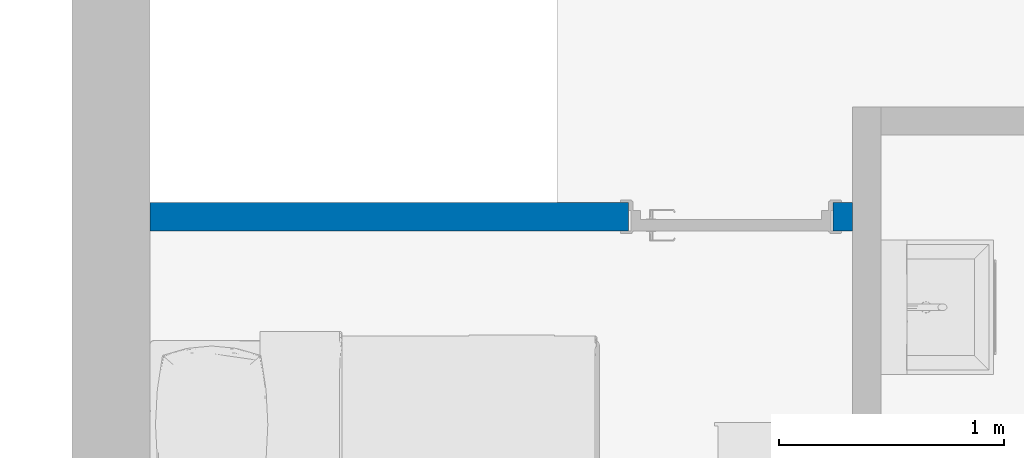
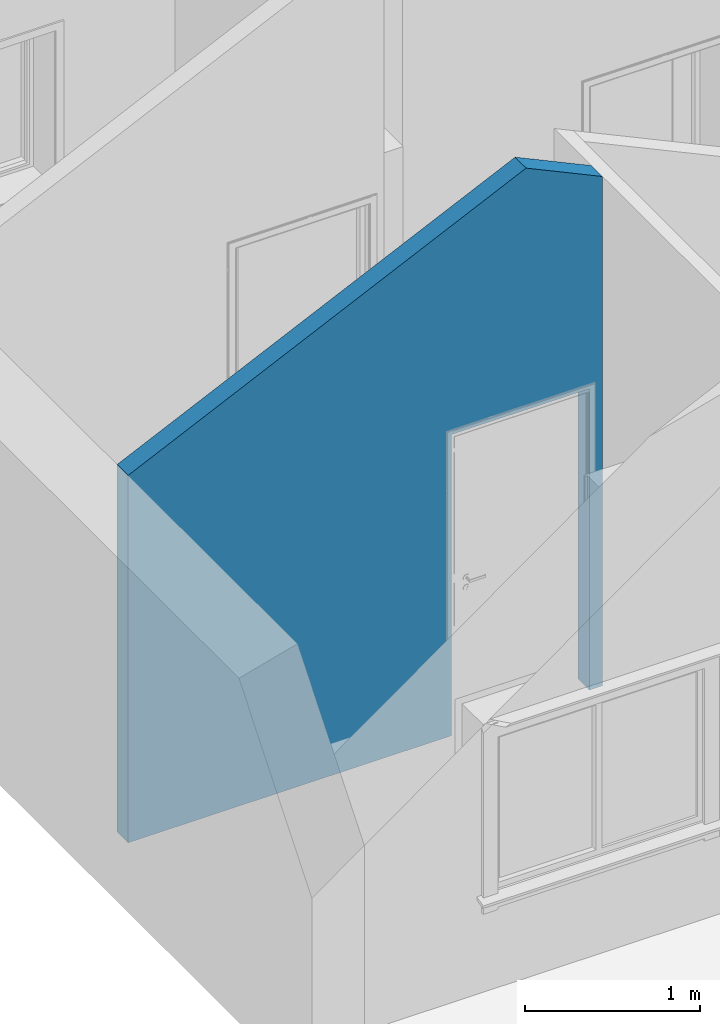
# One storey, part 3 of 44: 1 wall, 1 opening.
"""IFC2X3 building model written with IfcOpenShell, lengths in millimetres."""

from ifc_helpers import new_model, entity, si_unit, converted_unit, direction, frame, frame_2d, origin, place, context, subcontext, project, spatial, polyline, rectangle, extrude, clip, bounded_halfspace, material, layer, layer_set, layer_usage, type_object, element, save


model = new_model("IFC2X3")

# Units and contexts
model_context = context("Model", 3, precision=0.01, world=origin(), true_north=direction((0.0, 1.0)))
body_context = subcontext(model_context, "Body", "Model", "MODEL_VIEW")
ifc_project = project(units=[si_unit("LENGTHUNIT", "METRE", prefix="MILLI"), si_unit("AREAUNIT", "SQUARE_METRE"), si_unit("VOLUMEUNIT", "CUBIC_METRE"), converted_unit("PLANEANGLEUNIT", "DEGREE", entity("IfcPlaneAngleMeasure", 0.017453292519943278), si_unit("PLANEANGLEUNIT", "RADIAN"), dimensions=[0, 0, 0, 0, 0, 0, 0])], contexts=[model_context])

# Site, building, storey
site_placement = place(None, origin())
site = spatial("IfcSite", under=ifc_project, at=site_placement, Name="Default", CompositionType="ELEMENT")
building_placement = place(site_placement, origin())
building = spatial("IfcBuilding", under=site, at=building_placement, CompositionType="ELEMENT")
storey_placement = place(building_placement, frame((0.0, 0.0, 2681.0)))
storey = spatial("IfcBuildingStorey", under=building, at=storey_placement, Name="Et. 2", CompositionType="ELEMENT", Elevation=2681.0)

# Wall, opening
ifc_material_1 = material(Name="Vegg - Gips - Innvendig - Hvit")
ifc_layer_1 = layer(ifc_material_1, 13.000000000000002)
ifc_material_2 = material(Name="Vegg - Stender - Stål - Isolert")
ifc_layer_2 = layer(ifc_material_2, 100.0)
ifc_layer_3 = layer(ifc_material_1, 13.000000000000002)
ifc_layer_set = layer_set([ifc_layer_1, ifc_layer_2, ifc_layer_3], Name="Basic Wall:24-GSIG-13_100_13")
ifc_layer_usage = layer_usage(ifc_layer_set, "AXIS2", "NEGATIVE", 63.00000000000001)
wall_type = type_object("IfcWallType", Name="Basic Wall:24-GSIG-13_100_13", PredefinedType="STANDARD", material=ifc_layer_set)
wall_placement = place(storey_placement, frame((10437.009586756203, 14169.058719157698, 0.0)))
wall = element("IfcWallStandardCase", 1, at=wall_placement, inside=storey, type_object=wall_type, material=ifc_layer_usage, Name="Basic Wall:24-GSIG-13_100_13", context=body_context, shape_type="Clipping", body=[
    clip(clip(extrude(rectangle(XDim=3128.0000000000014, YDim=126.00000000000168, at=frame_2d((1564.0000000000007, 4.973799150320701e-13), x_axis=(-1.0, 0.0))), origin(), (0.0, 0.0, 1.0), 3785.1668985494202), bounded_halfspace(frame((0.0, -63.0, 2561.3424497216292), z_axis=(-0.42261826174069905, 0.0, 0.9063077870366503), x_axis=(0.0, -1.0, 0.0)), False, frame((0.0, -63.0, 2561.3424497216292)), polyline([(0.0, 0.0), (2624.4999999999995, 0.0), (2624.4999999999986, 126.0), (0.0, 126.0), (0.0, 0.0)]))), bounded_halfspace(frame((2624.499999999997, -63.0, 3785.1668985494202), z_axis=(0.42261826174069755, 0.0, 0.9063077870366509), x_axis=(0.0, 1.0, 0.0)), False, frame((2624.499999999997, -63.0, 3785.1668985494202)), polyline([(0.0, 0.0), (503.50000000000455, 0.0), (503.5000000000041, 126.0), (0.0, 126.0), (0.0, 0.0)]))),
])
opening_placement = place(wall_placement, frame((3041.0, 63.0, 0.0)))
element("IfcOpeningElement", 2, at=opening_placement, cuts=wall, Name="ID Hel:9x21M:1", ObjectType="Opening", context=body_context, shape_type="SweptSolid", body=[
    extrude(rectangle(XDim=910.0000000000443, YDim=2100.0000000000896, at=frame_2d((1050.0000000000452, 455.00000000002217), x_axis=(0.0, -1.0))), frame((0.0, 0.0, 0.0), z_axis=(0.0, -1.0, 0.0), x_axis=(0.0, 0.0, 1.0)), (0.0, 0.0, 1.0), 126.00000000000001),
])

save(model, "model.ifc")
